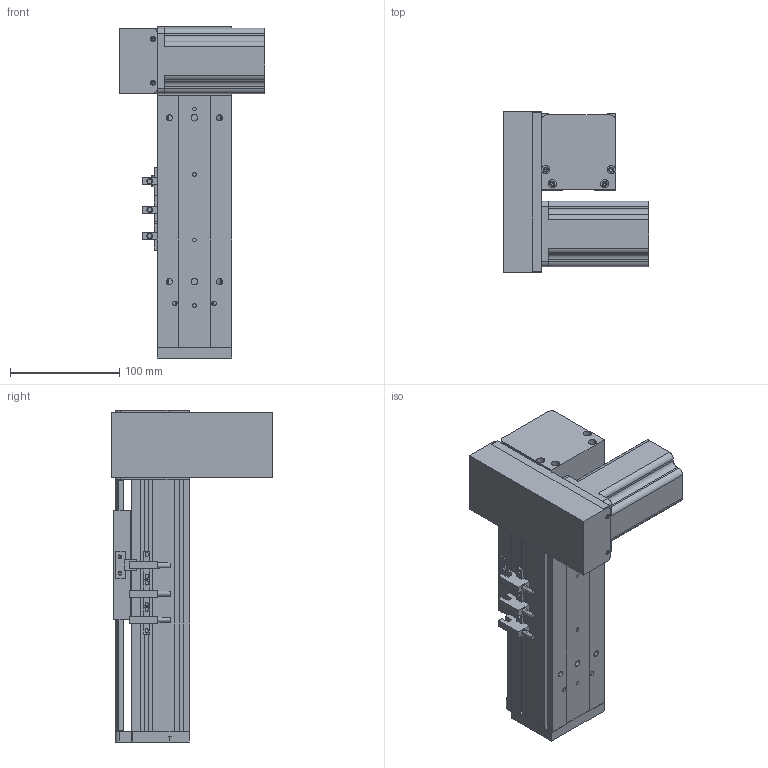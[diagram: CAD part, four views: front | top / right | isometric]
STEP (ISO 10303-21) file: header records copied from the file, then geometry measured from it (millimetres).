
FILE_DESCRIPTION (( 'STEP AP203' ), '1' );
FILE_NAME ('ML68-S50-DR.STEP', '2016-08-05T00:46:00', ( '' ), ( '' ), 'SwSTEP 2.0', 'SolidWorks 2014', '' );
FILE_SCHEMA (( 'CONFIG_CONTROL_DESIGN' ));
Length unit declared in the file: millimetre
Products named in the file (11): 60換覜結え; ML68奻裔^ML68-S50-DR; 葩璃 ML68菁釱^ML68-S50-DR; 三协电机MH201N2_預設; ML68-S50-DR; ML68雄赽釱; QS68酘衵殏萇儂啣; ML68傷啣; 換覜ん; ML68-BL傷啣; QS68左右折电机板罩子
Assembly tree (12 placements, depth 2):
  ML68-S50-DR
    葩璃 ML68菁釱^ML68-S50-DR
    ML68奻裔^ML68-S50-DR
    ML68傷啣
    ML68-BL傷啣
    60換覜結え
    換覜ん  x3
    三协电机MH201N2_預設
    ML68雄赽釱
    QS68酘衵殏萇儂啣
    QS68左右折电机板罩子
Bounding box: 133.5 x 148 x 304 mm (x, y, z)
Volume: 1031798.8 mm3; surface area: 314560.4 mm2
Topology: 12 solids, 12 shells, 785 faces, 2150 edges, 1363 vertices
Faces by surface type: cylinder 350, plane 343, cone 92
Entity records: 24365 total; most frequent: CARTESIAN_POINT 4377, DIRECTION 4042, ORIENTED_EDGE 3808, EDGE_CURVE 1904, AXIS2_PLACEMENT_3D 1448, VERTEX_POINT 1251, LINE 1146, VECTOR 1146
